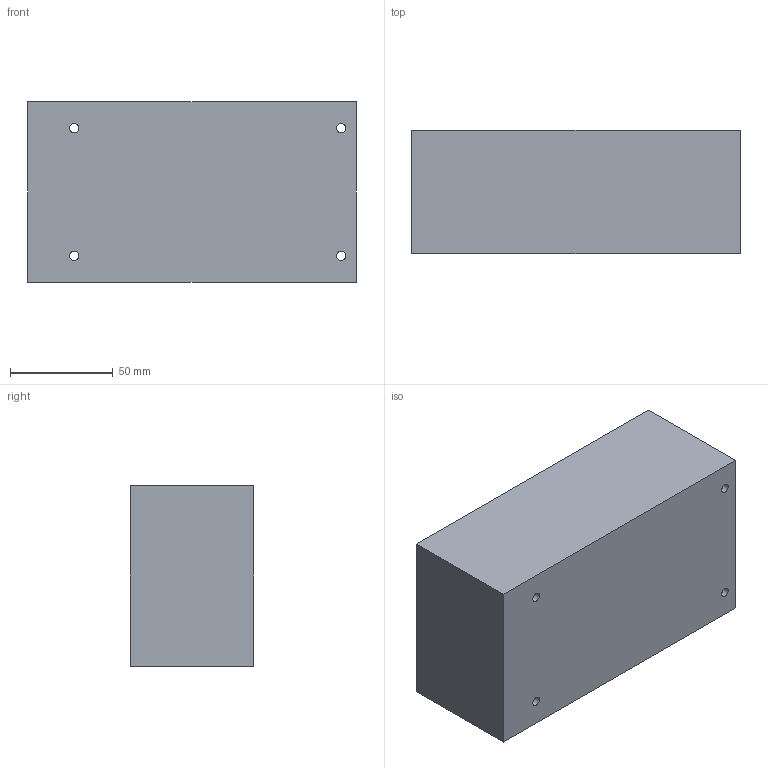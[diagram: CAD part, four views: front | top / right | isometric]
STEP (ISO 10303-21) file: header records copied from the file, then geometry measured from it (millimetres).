
FILE_DESCRIPTION(('FreeCAD Model'),'2;1');
FILE_NAME('Open CASCADE Shape Model','2026-09-11T14:18:24',( '' ),( '' ),'Open CASCADE STEP processor 7.8','FreeCAD','Unknown');
FILE_SCHEMA(('AUTOMOTIVE_DESIGN { 1 0 10303 214 1 1 1 1 }'));
Length unit declared in the file: millimetre
Products named in the file (1): Open CASCADE STEP translator 7.8 1
Bounding box: 159.8 x 60 x 88 mm (x, y, z)
Volume: 150519.5 mm3; surface area: 87246.5 mm2
Topology: 1 solids, 1 shells, 60 faces, 141 edges, 94 vertices
Faces by surface type: plane 39, cylinder 15, cone 6
Full cylindrical faces by diameter (mm): 4 x10, 4.5 x4, 12.2 x1
Entity records: 1769 total; most frequent: DIRECTION 321, CARTESIAN_POINT 296, ORIENTED_EDGE 282, EDGE_CURVE 141, AXIS2_PLACEMENT_3D 119, VERTEX_POINT 94, LINE 83, VECTOR 83
